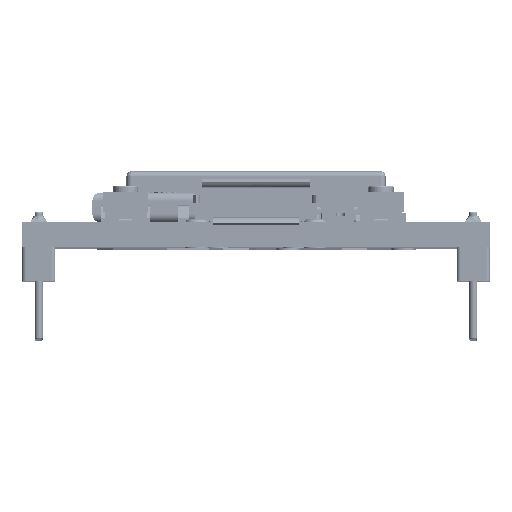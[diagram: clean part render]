
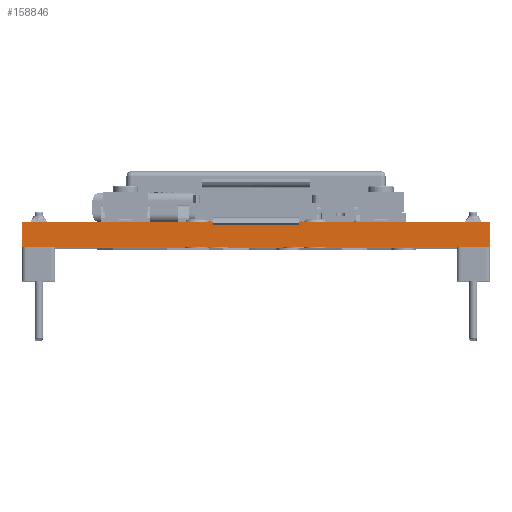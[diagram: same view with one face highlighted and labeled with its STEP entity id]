
A CAD part, top view. The second image highlights one B-rep face of the part: STEP entity #158846.
In plain terms, the highlighted planar face has unit normal (0, 0, 1).
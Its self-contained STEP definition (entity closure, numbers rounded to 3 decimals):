
#4971=PLANE('',#168529);
#15374=FACE_OUTER_BOUND('',#24851,.T.);
#24851=EDGE_LOOP('',(#128279,#128280,#128281,#128282));
#44389=LINE('',#249492,#59001);
#44390=LINE('',#249495,#59002);
#44391=LINE('',#249497,#59003);
#44392=LINE('',#249498,#59004);
#59001=VECTOR('',#187834,10.);
#59002=VECTOR('',#187837,10.);
#59003=VECTOR('',#187838,10.);
#59004=VECTOR('',#187839,10.);
#74953=VERTEX_POINT('',#249486);
#74955=VERTEX_POINT('',#249490);
#74956=VERTEX_POINT('',#249494);
#74957=VERTEX_POINT('',#249496);
#94155=EDGE_CURVE('',#74953,#74955,#44389,.T.);
#94156=EDGE_CURVE('',#74953,#74956,#44390,.T.);
#94157=EDGE_CURVE('',#74957,#74955,#44391,.T.);
#94158=EDGE_CURVE('',#74956,#74957,#44392,.T.);
#128279=ORIENTED_EDGE('',*,*,#94156,.F.);
#128280=ORIENTED_EDGE('',*,*,#94155,.T.);
#128281=ORIENTED_EDGE('',*,*,#94157,.F.);
#128282=ORIENTED_EDGE('',*,*,#94158,.F.);
#158846=ADVANCED_FACE('',(#15374),#4971,.T.);
#168529=AXIS2_PLACEMENT_3D('',#249493,#187835,#187836);
#187834=DIRECTION('',(0.,1.,0.));
#187835=DIRECTION('center_axis',(0.,0.,1.));
#187836=DIRECTION('ref_axis',(1.,0.,0.));
#187837=DIRECTION('',(-1.,0.,0.));
#187838=DIRECTION('',(1.,0.,0.));
#187839=DIRECTION('',(0.,1.,0.));
#249486=CARTESIAN_POINT('',(14.,0.,27.5));
#249490=CARTESIAN_POINT('',(14.,1.5,27.5));
#249492=CARTESIAN_POINT('',(14.,0.,27.5));
#249493=CARTESIAN_POINT('Origin',(-14.,0.,27.5));
#249494=CARTESIAN_POINT('',(-14.,0.,27.5));
#249495=CARTESIAN_POINT('',(14.,0.,27.5));
#249496=CARTESIAN_POINT('',(-14.,1.5,27.5));
#249497=CARTESIAN_POINT('',(14.,1.5,27.5));
#249498=CARTESIAN_POINT('',(-14.,0.,27.5));
